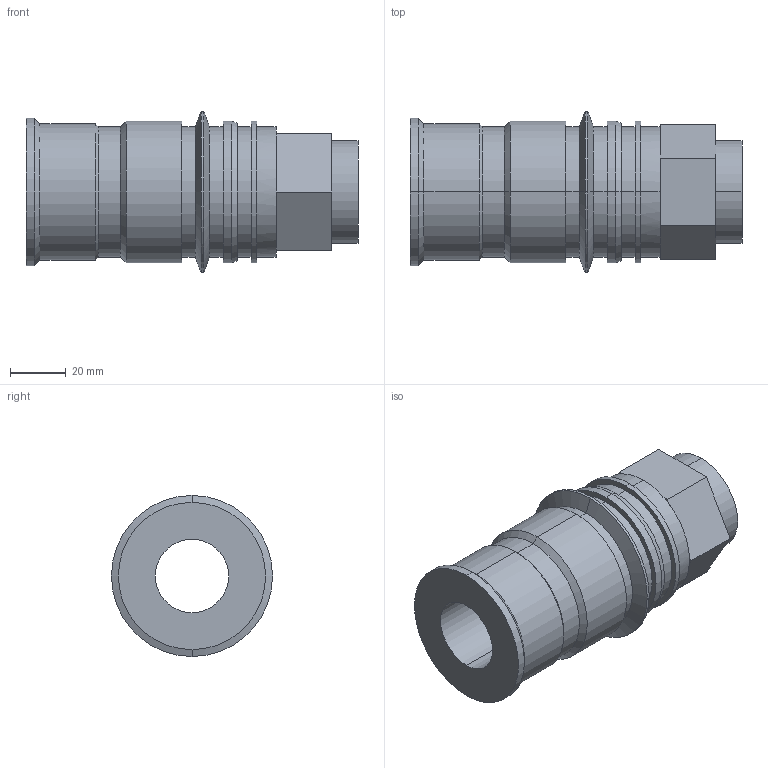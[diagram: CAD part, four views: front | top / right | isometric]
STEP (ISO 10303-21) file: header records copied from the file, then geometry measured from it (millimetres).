
FILE_DESCRIPTION (( 'STEP AP214' ), '1' );
FILE_NAME ('BR601.20 DGB 26.STEP', '2020-12-02T13:16:30', ( '' ), ( '' ), 'SwSTEP 2.0', 'SolidWorks 2018', '' );
FILE_SCHEMA (( 'AUTOMOTIVE_DESIGN' ));
Length unit declared in the file: millimetre
Products named in the file (1): BR601.20 DGB 26
Bounding box: 119.5 x 57.99 x 57.99 mm (x, y, z)
Volume: 147778.2 mm3; surface area: 33770.4 mm2
Topology: 1 solids, 1 shells, 64 faces, 134 edges, 78 vertices
Faces by surface type: cylinder 26, plane 26, cone 12
Entity records: 1730 total; most frequent: DIRECTION 330, CARTESIAN_POINT 277, ORIENTED_EDGE 268, EDGE_CURVE 134, AXIS2_PLACEMENT_3D 131, VERTEX_POINT 78, EDGE_LOOP 72, VECTOR 68
